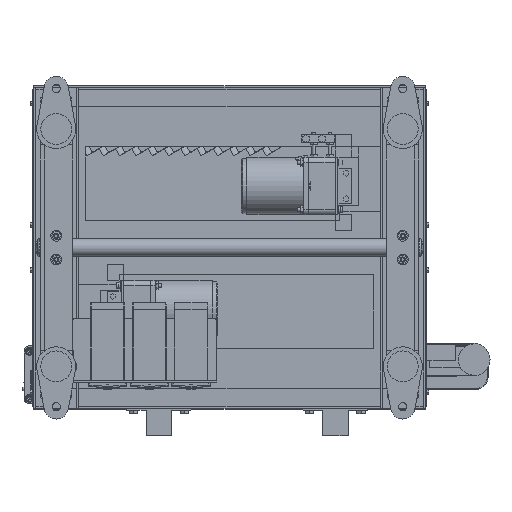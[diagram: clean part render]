
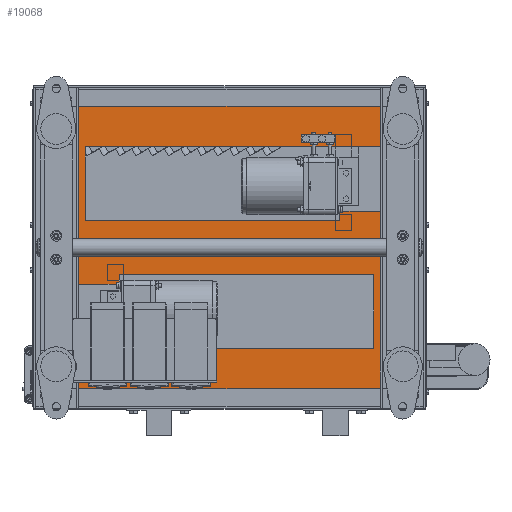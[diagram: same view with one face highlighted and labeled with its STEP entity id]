
A CAD part, front view. The second image highlights one B-rep face of the part: STEP entity #19068.
In plain terms, the highlighted planar face has unit normal (0, -1, 0).
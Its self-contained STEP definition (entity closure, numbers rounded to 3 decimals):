
#351 = VECTOR ( 'NONE', #729, 1000. ) ;
#729 = DIRECTION ( 'NONE',  ( 1., 0., 0. ) ) ;
#928 = FACE_BOUND ( 'NONE', #58846, .T. ) ;
#1365 = CARTESIAN_POINT ( 'NONE',  ( 610., -93., 247. ) ) ;
#1744 = DIRECTION ( 'NONE',  ( 1., 0., 0. ) ) ;
#1832 = LINE ( 'NONE', #1365, #51690 ) ;
#1994 = LINE ( 'NONE', #33324, #49033 ) ;
#2590 = CARTESIAN_POINT ( 'NONE',  ( 607., -93., 500000. ) ) ;
#3504 = DIRECTION ( 'NONE',  ( 0., 0., 1. ) ) ;
#3809 = VERTEX_POINT ( 'NONE', #56010 ) ;
#4538 = CARTESIAN_POINT ( 'NONE',  ( 610., -93., -247. ) ) ;
#4646 = VERTEX_POINT ( 'NONE', #18473 ) ;
#5135 = CARTESIAN_POINT ( 'NONE',  ( 3., -93., 500000. ) ) ;
#5368 = LINE ( 'NONE', #7151, #13186 ) ;
#5824 = DIRECTION ( 'NONE',  ( 1., 0., 0. ) ) ;
#5997 = CARTESIAN_POINT ( 'NONE',  ( 477., -93., 42. ) ) ;
#6085 = VERTEX_POINT ( 'NONE', #25959 ) ;
#7040 = VERTEX_POINT ( 'NONE', #31364 ) ;
#7151 = CARTESIAN_POINT ( 'NONE',  ( 80., -93., 42. ) ) ;
#7396 = FACE_OUTER_BOUND ( 'NONE', #28448, .T. ) ;
#7559 = LINE ( 'NONE', #4538, #351 ) ;
#7573 = VECTOR ( 'NONE', #44410, 1000. ) ;
#7614 = EDGE_CURVE ( 'NONE', #48470, #15620, #30564, .T. ) ;
#7815 = ORIENTED_EDGE ( 'NONE', *, *, #10458, .F. ) ;
#8388 = CARTESIAN_POINT ( 'NONE',  ( 607., -93., 247. ) ) ;
#8734 = EDGE_CURVE ( 'NONE', #36199, #15620, #7559, .T. ) ;
#8933 = EDGE_CURVE ( 'NONE', #26413, #30100, #5368, .T. ) ;
#9599 = VERTEX_POINT ( 'NONE', #12420 ) ;
#10458 = EDGE_CURVE ( 'NONE', #30494, #6085, #47169, .T. ) ;
#10689 = CARTESIAN_POINT ( 'NONE',  ( 570., -93., 57. ) ) ;
#11000 = DIRECTION ( 'NONE',  ( -1., 0., 0. ) ) ;
#12420 = CARTESIAN_POINT ( 'NONE',  ( 40., -93., -157. ) ) ;
#12561 = CARTESIAN_POINT ( 'NONE',  ( 133., -93., -57. ) ) ;
#12566 = EDGE_CURVE ( 'NONE', #26229, #16473, #48895, .T. ) ;
#12899 = LINE ( 'NONE', #16190, #26472 ) ;
#13120 = FACE_BOUND ( 'NONE', #47375, .T. ) ;
#13186 = VECTOR ( 'NONE', #52527, 1000. ) ;
#14377 = VECTOR ( 'NONE', #25761, 1000. ) ;
#14450 = ORIENTED_EDGE ( 'NONE', *, *, #8933, .F. ) ;
#15392 = ORIENTED_EDGE ( 'NONE', *, *, #7614, .F. ) ;
#15507 = CARTESIAN_POINT ( 'NONE',  ( 3., -93., 247. ) ) ;
#15620 = VERTEX_POINT ( 'NONE', #55080 ) ;
#16163 = EDGE_CURVE ( 'NONE', #7040, #45703, #12899, .T. ) ;
#16190 = CARTESIAN_POINT ( 'NONE',  ( 40., -93., -57. ) ) ;
#16473 = VERTEX_POINT ( 'NONE', #22239 ) ;
#16661 = CARTESIAN_POINT ( 'NONE',  ( 80., -93., 157. ) ) ;
#16932 = DIRECTION ( 'NONE',  ( -1., 0., 0. ) ) ;
#18473 = CARTESIAN_POINT ( 'NONE',  ( 530., -93., -157. ) ) ;
#19068 = ADVANCED_FACE ( 'NONE', ( #13120, #928, #7396 ), #57734, .F. ) ;
#19327 = LINE ( 'NONE', #24196, #43582 ) ;
#19508 = ORIENTED_EDGE ( 'NONE', *, *, #23127, .T. ) ;
#19551 = ORIENTED_EDGE ( 'NONE', *, *, #32147, .F. ) ;
#19631 = CARTESIAN_POINT ( 'NONE',  ( 80., -93., 42. ) ) ;
#19815 = CARTESIAN_POINT ( 'NONE',  ( 530., -93., -157. ) ) ;
#21399 = VECTOR ( 'NONE', #26114, 1000. ) ;
#22239 = CARTESIAN_POINT ( 'NONE',  ( 80., -93., 157. ) ) ;
#23127 = EDGE_CURVE ( 'NONE', #48470, #44792, #1832, .T. ) ;
#23729 = ORIENTED_EDGE ( 'NONE', *, *, #58436, .F. ) ;
#23839 = DIRECTION ( 'NONE',  ( 0., 0., -1. ) ) ;
#24196 = CARTESIAN_POINT ( 'NONE',  ( 570., -93., 57. ) ) ;
#24251 = DIRECTION ( 'NONE',  ( 0., 0., -1. ) ) ;
#24486 = LINE ( 'NONE', #19631, #43033 ) ;
#24896 = CARTESIAN_POINT ( 'NONE',  ( 570., -93., 157. ) ) ;
#25225 = LINE ( 'NONE', #51453, #38077 ) ;
#25522 = VECTOR ( 'NONE', #53138, 1000. ) ;
#25761 = DIRECTION ( 'NONE',  ( -1., 0., 0. ) ) ;
#25959 = CARTESIAN_POINT ( 'NONE',  ( 133., -93., -42. ) ) ;
#25985 = ORIENTED_EDGE ( 'NONE', *, *, #12566, .F. ) ;
#26114 = DIRECTION ( 'NONE',  ( 0., 0., 1. ) ) ;
#26128 = VECTOR ( 'NONE', #36736, 1000. ) ;
#26201 = ORIENTED_EDGE ( 'NONE', *, *, #50439, .F. ) ;
#26229 = VERTEX_POINT ( 'NONE', #24896 ) ;
#26413 = VERTEX_POINT ( 'NONE', #48346 ) ;
#26472 = VECTOR ( 'NONE', #43699, 1000. ) ;
#26735 = VERTEX_POINT ( 'NONE', #10689 ) ;
#27802 = CARTESIAN_POINT ( 'NONE',  ( 40., -93., -57. ) ) ;
#27948 = ORIENTED_EDGE ( 'NONE', *, *, #31451, .F. ) ;
#28448 = EDGE_LOOP ( 'NONE', ( #15392, #19508, #51568, #44190 ) ) ;
#29049 = LINE ( 'NONE', #5135, #26128 ) ;
#29304 = LINE ( 'NONE', #44038, #21399 ) ;
#29457 = DIRECTION ( 'NONE',  ( 0., 0., 1. ) ) ;
#30100 = VERTEX_POINT ( 'NONE', #5997 ) ;
#30494 = VERTEX_POINT ( 'NONE', #36531 ) ;
#30564 = LINE ( 'NONE', #2590, #25522 ) ;
#30576 = CARTESIAN_POINT ( 'NONE',  ( 610., -93., 500000. ) ) ;
#30951 = CARTESIAN_POINT ( 'NONE',  ( 570., -93., 57. ) ) ;
#31364 = CARTESIAN_POINT ( 'NONE',  ( 133., -93., -57. ) ) ;
#31451 = EDGE_CURVE ( 'NONE', #30100, #3809, #29304, .T. ) ;
#32147 = EDGE_CURVE ( 'NONE', #9599, #4646, #1994, .T. ) ;
#32174 = VECTOR ( 'NONE', #3504, 1000. ) ;
#33324 = CARTESIAN_POINT ( 'NONE',  ( 530., -93., -157. ) ) ;
#33705 = ORIENTED_EDGE ( 'NONE', *, *, #47170, .F. ) ;
#34048 = VECTOR ( 'NONE', #45490, 1000. ) ;
#34450 = VECTOR ( 'NONE', #29457, 1000. ) ;
#34704 = ORIENTED_EDGE ( 'NONE', *, *, #55493, .F. ) ;
#34812 = CARTESIAN_POINT ( 'NONE',  ( 530., -93., -42. ) ) ;
#35149 = DIRECTION ( 'NONE',  ( 0., 1., 0. ) ) ;
#36199 = VERTEX_POINT ( 'NONE', #49693 ) ;
#36477 = ORIENTED_EDGE ( 'NONE', *, *, #42245, .F. ) ;
#36531 = CARTESIAN_POINT ( 'NONE',  ( 530., -93., -42. ) ) ;
#36736 = DIRECTION ( 'NONE',  ( 0., 0., -1. ) ) ;
#37903 = LINE ( 'NONE', #30951, #32174 ) ;
#38077 = VECTOR ( 'NONE', #24251, 1000. ) ;
#40062 = LINE ( 'NONE', #19815, #34450 ) ;
#42245 = EDGE_CURVE ( 'NONE', #4646, #30494, #40062, .T. ) ;
#43033 = VECTOR ( 'NONE', #23839, 1000. ) ;
#43582 = VECTOR ( 'NONE', #5824, 1000. ) ;
#43652 = ORIENTED_EDGE ( 'NONE', *, *, #45903, .F. ) ;
#43699 = DIRECTION ( 'NONE',  ( -1., 0., 0. ) ) ;
#44038 = CARTESIAN_POINT ( 'NONE',  ( 477., -93., 57. ) ) ;
#44190 = ORIENTED_EDGE ( 'NONE', *, *, #8734, .T. ) ;
#44410 = DIRECTION ( 'NONE',  ( 0., 0., -1. ) ) ;
#44792 = VERTEX_POINT ( 'NONE', #15507 ) ;
#45490 = DIRECTION ( 'NONE',  ( -1., 0., 0. ) ) ;
#45703 = VERTEX_POINT ( 'NONE', #27802 ) ;
#45903 = EDGE_CURVE ( 'NONE', #3809, #26735, #19327, .T. ) ;
#45920 = AXIS2_PLACEMENT_3D ( 'NONE', #30576, #35149, #16932 ) ;
#46383 = EDGE_CURVE ( 'NONE', #44792, #36199, #29049, .T. ) ;
#47169 = LINE ( 'NONE', #34812, #14377 ) ;
#47170 = EDGE_CURVE ( 'NONE', #26735, #26229, #37903, .T. ) ;
#47375 = EDGE_LOOP ( 'NONE', ( #27948, #14450, #34704, #25985, #33705, #43652 ) ) ;
#48346 = CARTESIAN_POINT ( 'NONE',  ( 80., -93., 42. ) ) ;
#48470 = VERTEX_POINT ( 'NONE', #8388 ) ;
#48889 = LINE ( 'NONE', #12561, #7573 ) ;
#48895 = LINE ( 'NONE', #16661, #34048 ) ;
#49033 = VECTOR ( 'NONE', #1744, 1000. ) ;
#49693 = CARTESIAN_POINT ( 'NONE',  ( 3., -93., -247. ) ) ;
#50439 = EDGE_CURVE ( 'NONE', #6085, #7040, #48889, .T. ) ;
#51453 = CARTESIAN_POINT ( 'NONE',  ( 40., -93., -157. ) ) ;
#51568 = ORIENTED_EDGE ( 'NONE', *, *, #46383, .T. ) ;
#51690 = VECTOR ( 'NONE', #11000, 1000. ) ;
#52527 = DIRECTION ( 'NONE',  ( 1., 0., 0. ) ) ;
#53128 = ORIENTED_EDGE ( 'NONE', *, *, #16163, .F. ) ;
#53138 = DIRECTION ( 'NONE',  ( 0., 0., -1. ) ) ;
#55080 = CARTESIAN_POINT ( 'NONE',  ( 607., -93., -247. ) ) ;
#55493 = EDGE_CURVE ( 'NONE', #16473, #26413, #24486, .T. ) ;
#56010 = CARTESIAN_POINT ( 'NONE',  ( 477., -93., 57. ) ) ;
#57734 = PLANE ( 'NONE',  #45920 ) ;
#58436 = EDGE_CURVE ( 'NONE', #45703, #9599, #25225, .T. ) ;
#58846 = EDGE_LOOP ( 'NONE', ( #26201, #7815, #36477, #19551, #23729, #53128 ) ) ;
